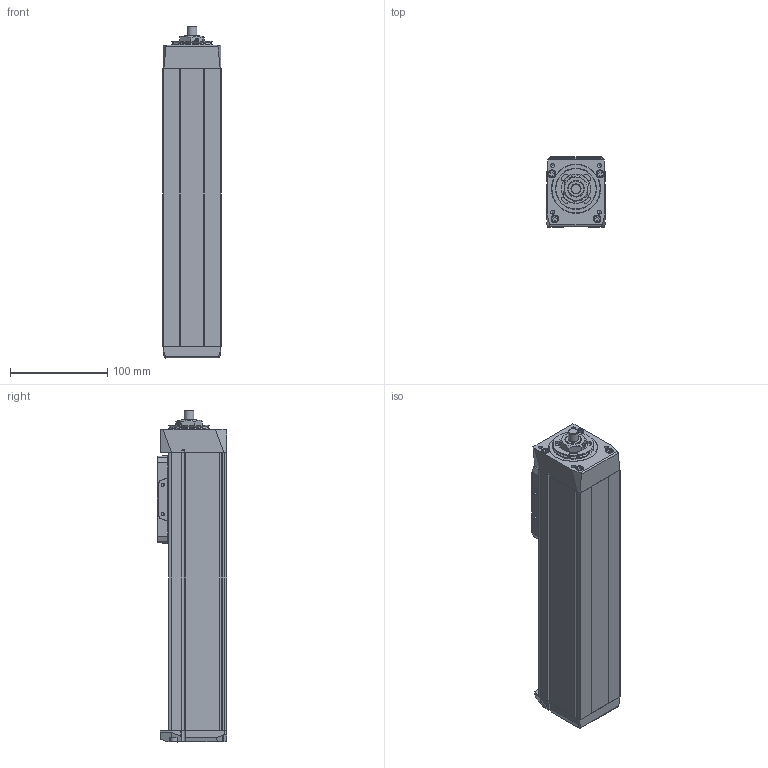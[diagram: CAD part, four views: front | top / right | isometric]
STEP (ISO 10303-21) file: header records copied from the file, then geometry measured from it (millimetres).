
FILE_DESCRIPTION(/* description */ ('STEP AP214'),/* implementation_level */ '2;1');
FILE_NAME(/* name */ 'MGBS 60 1210 150(0)',/* time_stamp */ '2023-04-17T13:15:27+02:00',/* author */ ('License CC BY-ND 4.0'),/* organization */ ('CADENAS'),/* preprocessor_version */ 'ST-DEVELOPER v19.3',/* originating_system */ 'PARTsolutions',/* authorisation */ ' ');
FILE_SCHEMA (('AUTOMOTIVE_DESIGN {1 0 10303 214 3 1 1}'));
Length unit declared in the file: millimetre
Products named in the file (6): MGBS 60 1210 150(0); MGBS 60 150_protection_strip; MGBS 60_carriage; MGBS 60_end_block; MGBS 60 150_profile; MGBS 60_drive_block
Assembly tree (5 placements, depth 2):
  MGBS 60 1210 150(0)
    MGBS 60 150_protection_strip
    MGBS 60_carriage
    MGBS 60_end_block
    MGBS 60 150_profile
    MGBS 60_drive_block
Bounding box: 60 x 72 x 342 mm (x, y, z)
Volume: 1188877 mm3; surface area: 164585.6 mm2
Topology: 5 solids, 5 shells, 694 faces, 1756 edges, 1135 vertices
Faces by surface type: plane 366, cylinder 144, cone 97, bspline 62, torus 23, sphere 2
Full cylindrical faces by diameter (mm): 2.459 x2, 2.46 x2, 3.242 x4, 4 x14, 4.134 x8, 4.8 x2, 5 x2, 5.5 x4, 7 x8, 7.6 x4, 8 x2, 10 x1, 11 x3, 23.8 x1, 30 x1, 42 x2, 50.2 x1
Entity records: 24817 total; most frequent: CARTESIAN_POINT 4104, DIRECTION 3372, ORIENTED_EDGE 3194, EDGE_CURVE 1597, AXIS2_PLACEMENT_3D 1197, VERTEX_POINT 1113, LINE 978, VECTOR 978
